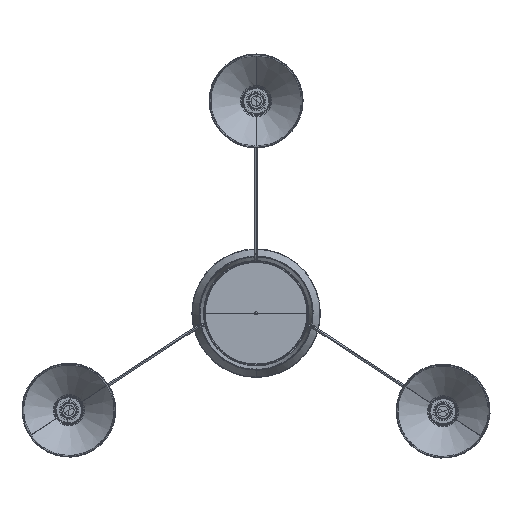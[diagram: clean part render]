
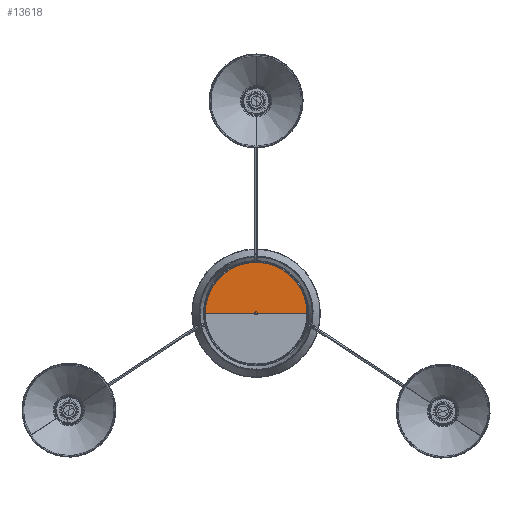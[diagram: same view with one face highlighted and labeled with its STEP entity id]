
A CAD part, top view. The second image highlights one B-rep face of the part: STEP entity #13618.
In plain terms, the highlighted planar face has unit normal (0, 0, 1).
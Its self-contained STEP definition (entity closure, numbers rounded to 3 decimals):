
#1320=PLANE('',#14824);
#1879=FACE_OUTER_BOUND('',#2756,.T.);
#2756=EDGE_LOOP('',(#10571,#10572));
#3645=LINE('',#26399,#4402);
#4402=VECTOR('',#17461,304.8);
#5057=CIRCLE('',#14825,108.233);
#5924=VERTEX_POINT('',#26396);
#5925=VERTEX_POINT('',#26397);
#7571=EDGE_CURVE('',#5925,#5924,#3645,.T.);
#7572=EDGE_CURVE('',#5925,#5924,#5057,.T.);
#10571=ORIENTED_EDGE('',*,*,#7572,.F.);
#10572=ORIENTED_EDGE('',*,*,#7571,.T.);
#13618=ADVANCED_FACE('',(#1879),#1320,.T.);
#14824=AXIS2_PLACEMENT_3D('',#26400,#17462,#17463);
#14825=AXIS2_PLACEMENT_3D('',#26401,#17464,#17465);
#17461=DIRECTION('',(1.,0.,0.));
#17462=DIRECTION('center_axis',(0.,0.,1.));
#17463=DIRECTION('ref_axis',(1.,0.,0.));
#17464=DIRECTION('center_axis',(0.,0.,-1.));
#17465=DIRECTION('ref_axis',(0.809,0.588,0.));
#26396=CARTESIAN_POINT('',(108.233,0.,23.91));
#26397=CARTESIAN_POINT('',(-108.233,0.,23.91));
#26399=CARTESIAN_POINT('',(3.,0.,23.91));
#26400=CARTESIAN_POINT('Origin',(0.,0.,
23.91));
#26401=CARTESIAN_POINT('Origin',(0.,0.,
23.91));
